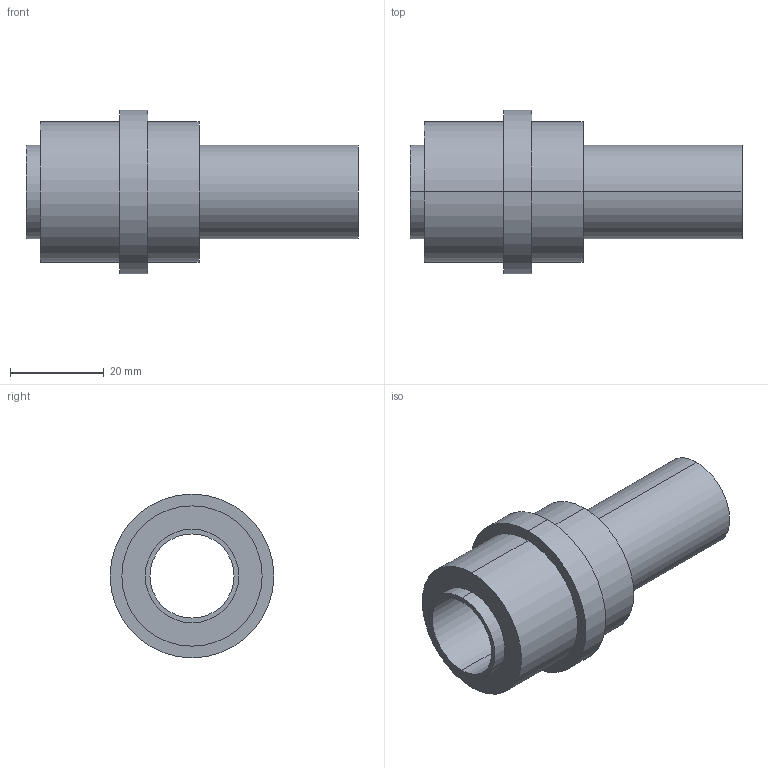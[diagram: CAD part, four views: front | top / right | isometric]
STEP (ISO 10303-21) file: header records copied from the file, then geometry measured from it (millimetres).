
FILE_DESCRIPTION (( 'STEP AP214' ), '1' );
FILE_NAME ('BR12-18x71.STEP', '2020-06-22T11:00:35', ( '' ), ( '' ), 'SwSTEP 2.0', 'SolidWorks 2018', '' );
FILE_SCHEMA (( 'AUTOMOTIVE_DESIGN' ));
Length unit declared in the file: millimetre
Products named in the file (1): BR12-18x71
Bounding box: 71 x 35 x 35 mm (x, y, z)
Volume: 19121.3 mm3; surface area: 11053.7 mm2
Topology: 1 solids, 1 shells, 18 faces, 36 edges, 24 vertices
Faces by surface type: cylinder 12, plane 6
Entity records: 522 total; most frequent: DIRECTION 98, CARTESIAN_POINT 79, ORIENTED_EDGE 72, AXIS2_PLACEMENT_3D 43, EDGE_CURVE 36, EDGE_LOOP 24, CIRCLE 24, VERTEX_POINT 24
